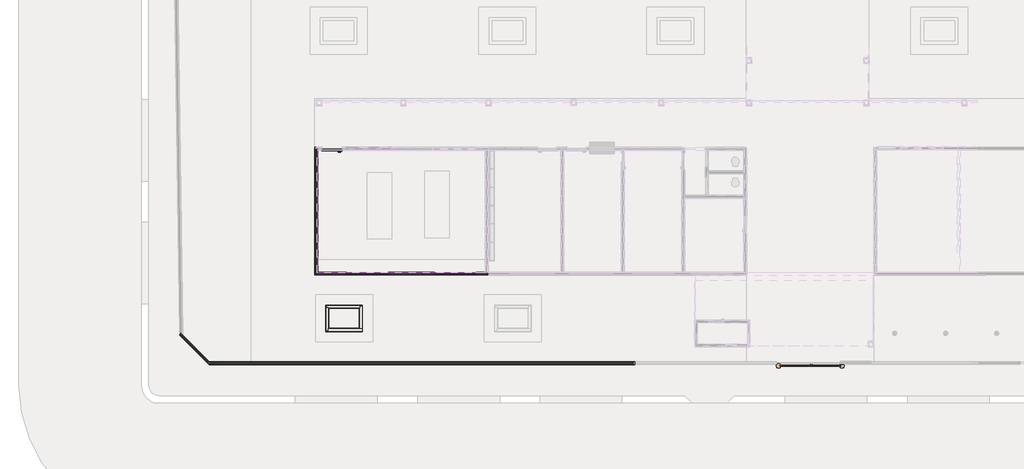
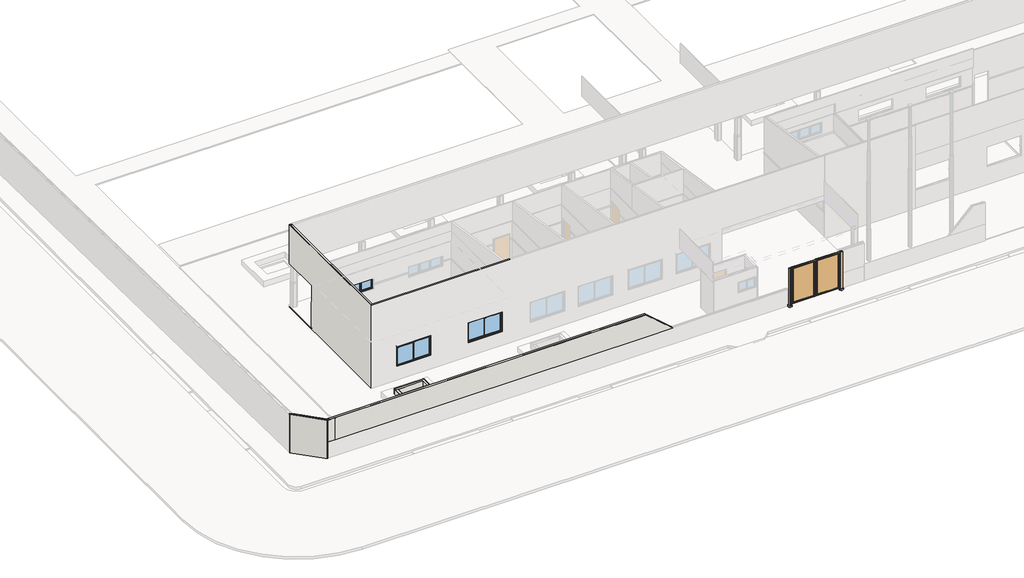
# One storey, part 1 of 28: 60 walls, 3 doors, 3 windows.
"""IFC4 building model written with IfcOpenShell, lengths in millimetres."""

from ifc_helpers import new_model, si_unit, frame, origin, origin_with_axes, place, context, project, spatial, polyline, outline, extrude, faceted_brep, transform, mapped, element, save
from components import door_f751b543, pf16_l92cm_bd960443, pt35_300x235cm_5ac86dbf, window_2x1_20x1x10_9e9748dd, window_2x1_20x1x10_631532af, window_2x60x220_e9b3d189

model = new_model("IFC4")

# Units and contexts
model_context = context("Model", 3, world=origin())
ifc_project = project(units=[si_unit("LENGTHUNIT", "METRE", prefix="MILLI")], contexts=[model_context])

# Site, building, storey
site = spatial("IfcSite", under=ifc_project)
building = spatial("IfcBuilding", under=site)
storey = spatial("IfcBuildingStorey", under=building, Name="Térreo", Elevation=0.0)

# Doors
placement = place(None, origin())
door_shape = door_f751b543(model_context)
element("IfcDoor", 1, ObjectType="FDE_SO_Soleiras1 : SO14_SoleiraRampadaDesnívelAté2cm_L=14cm_Cimentado 2", at=placement, inside=storey, context=model_context, shape_type="MappedRepresentation", body=[
    mapped(door_shape, transform((-54285.4091269, 10567.3195082, 0.0), x_axis=(-1.0, 0.0, 0.0), y_axis=(0.0, -1.0, 0.0), z_axis=(0.0, 0.0, 1.0))),
])
pf16_l92cm_shape = pf16_l92cm_bd960443(model_context)
element("IfcDoor", 2, ObjectType="FDE_PF15_PF16_PF17_PortaemChapadeFerro : PF16_L92cm", at=placement, inside=storey, context=model_context, shape_type="MappedRepresentation", body=[
    mapped(pf16_l92cm_shape, transform((-54285.4091269, 10532.3195082, 0.0), x_axis=(-1.0, 0.0, 0.0), y_axis=(0.0, -1.0, 0.0), z_axis=(0.0, 0.0, 1.0))),
])
pt35_300x235cm_shape = pt35_300x235cm_5ac86dbf(model_context)
element("IfcDoor", 3, ObjectType="FDE_PT34_PT35_Portão_UsoExterno_GradilEletrofundido_2Folhas : PT35_300x235cm", at=placement, inside=storey, context=model_context, shape_type="MappedRepresentation", body=[
    mapped(pt35_300x235cm_shape, transform((-30848.24702, -37.6448926, 200.0), x_axis=(-1.0, 0.0, 0.0), y_axis=(0.0, -1.0, 0.0), z_axis=(0.0, 0.0, 1.0))),
])

# Walls
element("IfcWall", 4, ObjectType="FDE_S712_AlvenariadeTijoloCerâmico/Baiano_Alvenaria_9cm - Existente", at=placement, inside=storey, context=model_context, shape_type="Brep", body=[
    faceted_brep([(-55003.4091269, 4430.0, 3500.0), (-55003.4091269, 4430.0, 0.0), (-55003.4091269, 4520.0, 0.0), (-55003.4091269, 10541.3195082, 0.0), (-55003.4091269, 10631.3195082, 0.0), (-55003.4091269, 10652.3195082, 0.0), (-55003.4091269, 10652.3195082, 220.0), (-55003.4091269, 10637.3195082, 220.0), (-55003.4091269, 10637.3195082, 1824.9435125), (-55003.4091269, 10631.3195082, 1824.9435125), (-55003.4091269, 10631.3195082, 3500.0), (-55003.4091269, 10541.3195082, 3500.0), (-55003.4091269, 4520.0, 3500.0), (-55093.4091269, 4430.0, 0.0), (-55093.4091269, 4430.0, 3500.0), (-55093.4091269, 10631.3195082, 3500.0), (-55093.4091269, 10631.3195082, 1824.9435125), (-55093.4091269, 10637.3195082, 1824.9435125), (-55093.4091269, 10637.3195082, 220.0), (-55093.4091269, 10652.3195082, 220.0), (-55093.4091269, 10652.3195082, 0.0)], [[[0, 1, 2, 3, 4, 5, 6, 7, 8, 9, 10, 11, 12]], [[13, 14, 15, 16, 17, 18, 19, 20]], [[5, 4, 3, 2, 1, 13, 20]], [[0, 12, 11, 10, 15, 14]], [[0, 14, 13, 1]], [[6, 5, 20, 19]], [[18, 7, 6, 19]], [[16, 9, 8, 17]], [[7, 18, 17, 8]], [[9, 16, 15, 10]]]),
])
element("IfcWall", 5, ObjectType="FDE_S712_AlvenariadeTijoloCerâmico/Baiano_Alvenaria_9cm - Existente", at=placement, inside=storey, context=model_context, shape_type="Brep", body=[
    faceted_brep([(-46653.4091269, 4520.0, 0.0), (-46743.4091269, 4520.0, 0.0), (-55003.4091269, 4520.0, 0.0), (-55003.4091269, 4520.0, 3500.0), (-46743.4091269, 4520.0, 3500.0), (-46653.4091269, 4520.0, 3500.0), (-47208.4091269, 4520.0, 965.0), (-47208.4091269, 4520.0, 2235.0), (-49278.4091269, 4520.0, 2235.0), (-49278.4091269, 4520.0, 965.0), (-51518.4091269, 4520.0, 965.0), (-51518.4091269, 4520.0, 2235.0), (-53588.4091269, 4520.0, 2235.0), (-53588.4091269, 4520.0, 965.0), (-55003.4091269, 4430.0, 0.0), (-46653.4091269, 4430.0, 0.0), (-46653.4091269, 4430.0, 3500.0), (-55003.4091269, 4430.0, 3500.0), (-47208.4091269, 4430.0, 2235.0), (-47208.4091269, 4430.0, 965.0), (-49278.4091269, 4430.0, 965.0), (-49278.4091269, 4430.0, 2235.0), (-51518.4091269, 4430.0, 2235.0), (-51518.4091269, 4430.0, 965.0), (-53588.4091269, 4430.0, 965.0), (-53588.4091269, 4430.0, 2235.0)], [[[0, 1, 2, 3, 4, 5], [6, 7, 8, 9], [10, 11, 12, 13]], [[14, 15, 16, 17], [18, 19, 20, 21], [22, 23, 24, 25]], [[2, 1, 0, 15, 14]], [[5, 4, 3, 17, 16]], [[0, 5, 16, 15]], [[2, 14, 17, 3]], [[10, 23, 22, 11]], [[11, 22, 25, 12]], [[12, 25, 24, 13]], [[23, 10, 13, 24]], [[6, 19, 18, 7]], [[7, 18, 21, 8]], [[8, 21, 20, 9]], [[19, 6, 9, 20]]]),
])
element("IfcWall", 6, ObjectType="FDE_S712_AlvenariadeTijoloCerâmico/Baiano_Alvenaria_9cm - Existente", at=placement, inside=storey, context=model_context, shape_type="Brep", body=[
    faceted_brep([(-60211.051397, 62.3387091, 0.0), (-60301.051397, 152.3387091, 0.0), (-61645.7047703, 1496.9920824, 0.0), (-61708.9096122, 1560.1969243, 0.0), (-61708.9096122, 1560.1969243, 2545.9092161), (-61645.7047703, 1496.9920824, 2545.9092161), (-60324.1743971, 175.4617092, 2545.9092161), (-60324.1743971, 175.4617092, 1156.7860555), (-60211.051397, 62.3387091, 1156.7860555), (-60338.3306177, 62.3387091, 0.0), (-60338.3306177, 62.3387091, 1156.7860555), (-60451.4536177, 175.4617092, 1156.7860555), (-60451.4536177, 175.4617092, 2545.9092161), (-61707.0908497, 1431.0989412, 2545.9092161), (-61707.0908497, 1431.0989412, 0.0)], [[[0, 1, 2, 3, 4, 5, 6, 7, 8]], [[9, 10, 11, 12, 13, 14]], [[3, 2, 1, 0, 9, 14]], [[6, 5, 4, 13, 12]], [[4, 3, 14, 13]], [[7, 11, 10, 8]], [[0, 8, 10, 9]], [[7, 6, 12, 11]]]),
])
element("IfcWall", 7, ObjectType="FDE_S712_AlvenariadeTijoloCerâmico/Baiano_Alvenaria_9cm - Existente", at=placement, inside=storey, context=model_context, shape_type="Brep", body=[
    faceted_brep([(-46743.4091269, 4520.0000015, 0.0), (-55003.4091269, 4520.0000015, 0.0), (-55003.4091269, 4520.0000015, 1731.0528047), (-55003.4091269, 4520.0000015, 1824.9435125), (-55003.4091269, 4520.0000015, 3500.0), (-55093.4091269, 4520.0000015, 3500.0), (-55093.4091269, 4520.0000015, 5400.0), (-55003.4091269, 4520.0000015, 5400.0), (-46698.4091269, 4520.0000015, 5400.0), (-46698.4091269, 4520.0000015, 5045.0), (-46743.4091269, 4520.0000015, 5045.0), (-46743.4091269, 4520.0000015, 5000.0), (-46743.4091269, 4520.0000015, 3500.0), (-46743.4091269, 4520.0000015, 1824.9435125), (-46743.4091269, 4520.0000015, 1731.0528047), (-46743.4091269, 4520.0000015, 220.0), (-51518.4091269, 4520.0000015, 965.0), (-51518.4091269, 4520.0000015, 1731.0528047), (-51518.4091269, 4520.0000015, 1824.9435125), (-51518.4091269, 4520.0000015, 2235.0), (-53588.4091269, 4520.0000015, 2235.0), (-53588.4091269, 4520.0000015, 1824.9435125), (-53588.4091269, 4520.0000015, 1731.0528047), (-53588.4091269, 4520.0000015, 965.0), (-47208.4091269, 4520.0000015, 965.0), (-47208.4091269, 4520.0000015, 1731.0528047), (-47208.4091269, 4520.0000015, 1824.9435125), (-47208.4091269, 4520.0000015, 2235.0), (-49278.4091269, 4520.0000015, 2235.0), (-49278.4091269, 4520.0000015, 1824.9435125), (-49278.4091269, 4520.0000015, 1731.0528047), (-49278.4091269, 4520.0000015, 965.0), (-55003.4091269, 4430.0000015, 0.0), (-46743.4091269, 4430.0000015, 0.0), (-46743.4091269, 4430.0000015, 3500.0), (-46743.4091269, 4430.0000015, 5000.0), (-46743.4091269, 4430.0000015, 5045.0), (-46698.4091269, 4430.0000015, 5045.0), (-46698.4091269, 4430.0000015, 5400.0), (-55093.4091269, 4430.0000015, 5400.0), (-55093.4091269, 4430.0000015, 3500.0), (-55003.4091269, 4430.0000015, 3500.0), (-51518.4091269, 4430.0000015, 2235.0), (-51518.4091269, 4430.0000015, 965.0), (-53588.4091269, 4430.0000015, 965.0), (-53588.4091269, 4430.0000015, 2235.0), (-47208.4091269, 4430.0000015, 2235.0), (-47208.4091269, 4430.0000015, 965.0), (-49278.4091269, 4430.0000015, 965.0), (-49278.4091269, 4430.0000015, 2235.0)], [[[0, 1, 2, 3, 4, 5, 6, 7, 8, 9, 10, 11, 12, 13, 14, 15], [16, 17, 18, 19, 20, 21, 22, 23], [24, 25, 26, 27, 28, 29, 30, 31]], [[32, 33, 34, 35, 36, 37, 38, 39, 40, 41], [42, 43, 44, 45], [46, 47, 48, 49]], [[1, 0, 33, 32]], [[8, 7, 6, 39, 38]], [[8, 38, 37, 9]], [[9, 37, 36, 10]], [[0, 15, 14, 13, 12, 11, 10, 36, 35, 34, 33]], [[5, 4, 41, 40]], [[1, 32, 41, 4, 3, 2]], [[39, 6, 5, 40]], [[16, 43, 42, 19, 18, 17]], [[19, 42, 45, 20]], [[20, 45, 44, 23, 22, 21]], [[43, 16, 23, 44]], [[24, 47, 46, 27, 26, 25]], [[27, 46, 49, 28]], [[28, 49, 48, 31, 30, 29]], [[47, 24, 31, 48]]]),
])
element("IfcWall", 8, ObjectType="FDE_S712_AlvenariadeTijoloCerâmico/Baiano_Alvenaria_9cm - Existente", at=placement, inside=storey, context=model_context, shape_type="Brep", body=[
    faceted_brep([(-55003.4091269, 4520.0, 0.0), (-55003.4091269, 10541.3195082, 0.0), (-55003.4091269, 10541.3195082, 2900.0), (-55003.4091269, 12829.0, 2900.0), (-55003.4091269, 12860.0, 2900.0), (-55003.4091269, 12920.0, 2900.0), (-55003.4091269, 12920.0, 5400.0), (-55003.4091269, 12860.0, 5400.0), (-55003.4091269, 12829.0, 5400.0), (-55003.4091269, 4520.0000015, 5400.0), (-55003.4091269, 4520.0000015, 3500.0), (-55003.4091269, 4520.0, 1824.9435125), (-55003.4091269, 4520.0, 1731.0528047), (-55093.4091269, 4520.0, 0.0), (-55093.4091269, 4520.0, 3500.0), (-55093.4091269, 4520.0000015, 5400.0), (-55093.4091269, 12920.0, 5400.0), (-55093.4091269, 12920.0, 2900.0), (-55093.4091269, 10541.3195082, 2900.0), (-55093.4091269, 10541.3195082, 0.0)], [[[0, 1, 2, 3, 4, 5, 6, 7, 8, 9, 10, 11, 12]], [[13, 14, 15, 16, 17, 18, 19]], [[0, 12, 11, 10, 14, 13]], [[10, 9, 15, 14]], [[1, 0, 13, 19]], [[9, 8, 7, 6, 16, 15]], [[5, 4, 3, 2, 18, 17]], [[6, 5, 17, 16]], [[1, 19, 18, 2]]]),
])
element("IfcWall", 9, ObjectType="Pintura Externa - Tinta Acrílica Verbrás  Verde Água", at=placement, inside=storey, context=model_context, shape_type="Brep", body=[
    faceted_brep([(-55093.4091269, 4430.0000017, 0.0), (-55093.4091269, 12980.0, 0.0), (-55093.4091269, 12980.0, 100.0), (-55093.4091269, 10652.3195082, 100.0), (-55093.4091269, 10652.3195082, 220.0), (-55093.4091269, 10667.3195082, 220.0), (-55093.4091269, 10667.3195082, 1731.0528047), (-55093.4091269, 10667.3195082, 1824.9435125), (-55093.4091269, 10652.3195082, 1824.9435125), (-55093.4091269, 10652.3195082, 2900.0), (-55093.4091269, 12950.0, 2900.0), (-55093.4091269, 12980.0, 2900.0), (-55093.4091269, 12980.0, 5400.0), (-55093.4091269, 12950.0, 5400.0), (-55093.4091269, 4430.0000017, 5400.0), (-55123.4091269, 12980.0, 0.0), (-55123.4091269, 4430.0000017, 0.0), (-55123.4091269, 4430.0000017, 5400.0), (-55123.4091269, 12980.0, 5400.0), (-55123.4091269, 12980.0, 2900.0), (-55123.4091269, 10652.3195082, 2900.0), (-55123.4091269, 10652.3195082, 1824.9435125), (-55123.4091269, 10667.3195082, 1824.9435125), (-55123.4091269, 10667.3195082, 220.0), (-55123.4091269, 10652.3195082, 220.0), (-55123.4091269, 10652.3195082, 100.0), (-55123.4091269, 12980.0, 100.0)], [[[0, 1, 2, 3, 4, 5, 6, 7, 8, 9, 10, 11, 12, 13, 14]], [[15, 16, 17, 18, 19, 20, 21, 22, 23, 24, 25, 26]], [[1, 0, 16, 15]], [[14, 13, 12, 18, 17]], [[0, 14, 17, 16]], [[9, 20, 19, 11, 10]], [[25, 3, 2, 26]], [[20, 9, 8, 21]], [[4, 3, 25, 24]], [[23, 5, 4, 24]], [[21, 8, 7, 22]], [[5, 23, 22, 7, 6]], [[1, 15, 26, 2]], [[18, 12, 11, 19]]]),
])
element("IfcWall", 10, ObjectType="Muro Edificação", at=placement, inside=storey, context=model_context, shape_type="Brep", body=[
    faceted_brep([(-60174.1743971, 25.4617092, 1156.7860555), (-41063.9536177, 25.4617092, 1156.7860555), (-39448.4091269, 25.4617092, 1156.7860555), (-41063.9536177, 25.4617092, 2545.9092161), (-60174.1743971, 25.4617092, 2545.9092161), (-60324.1743971, 175.4617092, 1156.7860555), (-60324.1743971, 175.4617092, 2545.9092161), (-60294.4759123, 175.4617092, 2545.9092161), (-41063.9536177, 175.4617092, 2545.9092161), (-39448.4091269, 175.4617092, 1156.7860555), (-41063.9536177, 175.4617092, 1156.7860555), (-60294.4759123, 175.4617092, 1156.7860555), (-60301.051397, 152.3387091, 1156.7860555)], [[[0, 1, 2, 3, 4]], [[5, 6, 7, 8, 9, 10, 11]], [[1, 0, 12, 5, 11, 10]], [[4, 3, 8, 7, 6]], [[2, 1, 10, 9]], [[3, 2, 9, 8]], [[0, 4, 6, 5, 12]]]),
])
element("IfcWall", 11, ObjectType="Pardes Externas_Pintura Acrílica Branco Neve", at=placement, inside=storey, context=model_context, shape_type="Brep", body=[
    faceted_brep([(-61756.0551867, 1450.3647934, 0.0), (-60310.1521025, 4.4617092, 0.0), (-60310.1521025, 4.4617092, 2551.1739106), (-61756.0551867, 1450.3647934, 2551.1739106), (-61756.4820754, 1480.4901668, 0.0), (-61756.4820754, 1480.4901668, 2545.9092161), (-61756.4820754, 1480.4901668, 2551.1739106), (-60280.4536177, 4.4617092, 2551.1739106), (-60280.4536177, 4.4617092, 2545.9092161), (-60280.4536177, 4.4617092, 1156.7860555), (-60280.4536177, 4.4617092, 0.0), (-61735.1780809, 1459.1861724, 0.0)], [[[0, 1, 2, 3]], [[4, 5, 6, 7, 8, 9, 10, 11]], [[1, 0, 4, 11, 10]], [[3, 2, 7, 6]], [[0, 3, 6, 5, 4]], [[2, 1, 10, 9, 8, 7]]]),
])
element("IfcWall", 12, ObjectType="Pardes Internas_Pintura Acrílica Branco Neve 2", at=placement, inside=storey, context=model_context, shape_type="Brep", body=[
    faceted_brep([(-55003.4091269, 10547.3195082, 1824.9435125), (-55003.4091269, 10517.3195082, 1824.9435125), (-55003.4091269, 4520.0, 1824.9435125), (-55003.4091269, 4520.0, 2900.0), (-55003.4091269, 10547.3195082, 2900.0), (-54972.4091269, 10547.3195082, 1824.9435125), (-54972.4091269, 10547.3195082, 2900.0), (-54972.4091269, 10541.3195082, 2900.0), (-54972.4091269, 10516.3195082, 2900.0), (-54972.4091269, 4551.0, 2900.0), (-54972.4091269, 4520.0, 2900.0), (-54972.4091269, 4520.0, 1824.9435125), (-54972.4091269, 4551.0, 1824.9435125), (-54972.4091269, 10516.3195082, 1824.9435125), (-54972.4091269, 10541.3195082, 1824.9435125)], [[[0, 1, 2, 3, 4]], [[5, 6, 7, 8, 9, 10, 11, 12, 13, 14]], [[2, 1, 0, 5, 14, 13, 12, 11]], [[4, 3, 10, 9, 8, 7, 6]], [[3, 2, 11, 10]], [[0, 4, 6, 5]]]),
])
element("IfcWall", 13, ObjectType="Pardes Internas_Pintura Acrílica Branco Neve 2", at=placement, inside=storey, context=model_context, shape_type="SweptSolid", body=[
    extrude(outline(polyline([(2900.0, -46774.4091269), (2900.0, -54972.4091269), (1824.9435125, -54972.4091269), (1824.9435125, -53588.4091269), (2235.0, -53588.4091269), (2235.0, -51518.4091269), (1824.9435125, -51518.4091269), (1824.9435125, -49278.4091269), (2235.0, -49278.4091269), (2235.0, -47208.4091269), (1824.9435125, -47208.4091269), (1824.9435125, -46774.4091269), (2900.0, -46774.4091269)])), frame((0.0, 4520.0, 0.0), z_axis=(0.0, 1.0, 0.0), x_axis=(0.0, 0.0, 1.0)), (0.0, 0.0, 1.0), 31.0),
])
element("IfcWall", 14, ObjectType="Revestimento Cerâmico 10x10cm", at=placement, inside=storey, context=model_context, shape_type="Brep", body=[
    faceted_brep([(-55003.4091269, 10541.3195082, 220.0), (-55003.4091269, 4520.0000015, 220.0), (-55003.4091269, 4520.0000015, 1731.0528047), (-55003.4091269, 10541.3195082, 1731.0528047), (-54973.4091269, 10541.3195082, 220.0), (-54973.4091269, 10541.3195082, 1731.0528047), (-54973.4091269, 4550.0000015, 1731.0528047), (-54973.4091269, 4520.0000015, 1731.0528047), (-54973.4091269, 4520.0000015, 220.0), (-54973.4091269, 4550.0000015, 220.0)], [[[0, 1, 2, 3]], [[4, 5, 6, 7, 8, 9]], [[1, 0, 4, 9, 8]], [[3, 2, 7, 6, 5]], [[2, 1, 8, 7]], [[0, 3, 5, 4]]]),
])
element("IfcWall", 15, ObjectType="Faixa - Revestimento Cerâmico Verde Folha 10x10cm", at=placement, inside=storey, context=model_context, shape_type="SweptSolid", body=[
    extrude(outline(polyline([(-55003.4091269, 4520.0), (-55003.4091269, 10541.3195082), (-54973.4091269, 10541.3195082), (-54973.4091269, 4520.0), (-55003.4091269, 4520.0)])), frame((0.0, 0.0, 1731.0528047), z_axis=(0.0, 0.0, 1.0), x_axis=(1.0, 0.0, 0.0)), (0.0, 0.0, 1.0), 93.8907079),
])
element("IfcWall", 16, ObjectType="Revestimento Cerâmico 10x10cm", at=placement, inside=storey, context=model_context, shape_type="Brep", body=[
    faceted_brep([(-54973.4091269, 4520.0000015, 220.0), (-46743.4091269, 4520.0000015, 220.0), (-46743.4091269, 4520.0000015, 1731.0528047), (-47208.4091269, 4520.0000015, 1731.0528047), (-47208.4091269, 4520.0000015, 965.0), (-49278.4091269, 4520.0000015, 965.0), (-49278.4091269, 4520.0000015, 1731.0528047), (-51518.4091269, 4520.0000015, 1731.0528047), (-51518.4091269, 4520.0000015, 965.0), (-53588.4091269, 4520.0000015, 965.0), (-53588.4091269, 4520.0000015, 1731.0528047), (-54973.4091269, 4520.0000015, 1731.0528047), (-46743.4091269, 4550.0000015, 220.0), (-46773.4091269, 4550.0000015, 220.0), (-54973.4091269, 4550.0000015, 220.0), (-54973.4091269, 4550.0000015, 1731.0528047), (-53588.4091269, 4550.0000015, 1731.0528047), (-53588.4091269, 4550.0000015, 965.0), (-51518.4091269, 4550.0000015, 965.0), (-51518.4091269, 4550.0000015, 1731.0528047), (-49278.4091269, 4550.0000015, 1731.0528047), (-49278.4091269, 4550.0000015, 965.0), (-47208.4091269, 4550.0000015, 965.0), (-47208.4091269, 4550.0000015, 1731.0528047), (-46773.4091269, 4550.0000015, 1731.0528047), (-46743.4091269, 4550.0000015, 1731.0528047)], [[[0, 1, 2, 3, 4, 5, 6, 7, 8, 9, 10, 11]], [[12, 13, 14, 15, 16, 17, 18, 19, 20, 21, 22, 23, 24, 25]], [[1, 0, 14, 13, 12]], [[2, 25, 24, 23, 3]], [[6, 20, 19, 7]], [[15, 11, 10, 16]], [[1, 12, 25, 2]], [[22, 4, 3, 23]], [[5, 21, 20, 6]], [[4, 22, 21, 5]], [[18, 8, 7, 19]], [[9, 17, 16, 10]], [[8, 18, 17, 9]], [[0, 11, 15, 14]]]),
])
element("IfcWall", 17, ObjectType="Faixa - Revestimento Cerâmico Verde Folha 10x10cm", at=placement, inside=storey, context=model_context, shape_type="SweptSolid", body=[
    extrude(outline(polyline([(-55003.4091269, 4520.0000015), (-55003.4091269, 4550.0000015), (-53588.4091269, 4550.0000015), (-53588.4091269, 4520.0000015), (-55003.4091269, 4520.0000015)])), frame((0.0, 0.0, 1731.0528047), z_axis=(0.0, 0.0, 1.0), x_axis=(1.0, 0.0, 0.0)), (0.0, 0.0, 1.0), 93.8907079),
])
element("IfcWall", 18, ObjectType="Faixa - Revestimento Cerâmico Verde Folha 10x10cm", at=placement, inside=storey, context=model_context, shape_type="SweptSolid", body=[
    extrude(outline(polyline([(-49278.4091269, 4550.0000015), (-49278.4091269, 4520.0000015), (-51518.4091269, 4520.0000015), (-51518.4091269, 4550.0000015), (-49278.4091269, 4550.0000015)])), frame((0.0, 0.0, 1731.0528047), z_axis=(0.0, 0.0, 1.0), x_axis=(1.0, 0.0, 0.0)), (0.0, 0.0, 1.0), 93.8907079),
])
element("IfcWall", 19, ObjectType="Faixa - Revestimento Cerâmico Verde Folha 10x10cm", at=placement, inside=storey, context=model_context, shape_type="Brep", body=[
    faceted_brep([(-55003.4091269, 10547.3195082, 1731.0528047), (-55003.4091269, 10547.3195082, 1824.9435125), (-54752.4091269, 10547.3195082, 1824.9435125), (-54752.4091269, 10547.3195082, 1731.0528047), (-55003.4091269, 10517.3195082, 1824.9435125), (-55003.4091269, 10517.3195082, 1731.0528047), (-54752.4091269, 10517.3195082, 1731.0528047), (-54752.4091269, 10517.3195082, 1824.9435125), (-55003.4091269, 10541.3195082, 1824.9435125), (-54752.4091269, 10541.3195082, 1824.9435125)], [[[0, 1, 2, 3]], [[4, 5, 6, 7]], [[5, 0, 3, 6]], [[1, 8, 4, 7, 9, 2]], [[0, 5, 4, 8, 1]], [[3, 2, 9, 7, 6]]]),
])
element("IfcWall", 20, ObjectType="FDE_S713_AlvenariadeTijoloLaminadoaVista_Alvenaria_1/2TijoloAlternado_11,5cm", at=placement, inside=storey, context=model_context, shape_type="Brep", body=[
    faceted_brep([(-54572.4091269, 2801.7308554, 100.0), (-54572.4091269, 1658.7308554, 100.0), (-54572.4091269, 1658.7308554, 800.0), (-54572.4091269, 2801.7308554, 800.0), (-54572.4091269, 2801.7308554, 179.0468845), (-54457.4091269, 2801.7308554, 100.0), (-54457.4091269, 2801.7308554, 800.0), (-54457.4091269, 1773.7308554, 800.0), (-54457.4091269, 1658.7308554, 800.0), (-54457.4091269, 1658.7308554, 100.0)], [[[0, 1, 2, 3, 4]], [[5, 6, 7, 8, 9]], [[1, 0, 5, 9]], [[3, 2, 8, 7, 6]], [[2, 1, 9, 8]], [[0, 4, 3, 6, 5]]]),
])
element("IfcWall", 21, ObjectType="FDE_S713_AlvenariadeTijoloLaminadoaVista_Alvenaria_1/2TijoloAlternado_11,5cm", at=placement, inside=storey, context=model_context, shape_type="Brep", body=[
    faceted_brep([(-54457.4091269, 1658.7308554, 0.0), (-52814.4091269, 1658.7308554, 0.0), (-52814.4091269, 1658.7308554, 800.0), (-54457.4091269, 1658.7308554, 800.0), (-54457.4091269, 1658.7308554, 100.0), (-54457.4091269, 1773.7308554, 0.0), (-54457.4091269, 1773.7308554, 800.0), (-52929.4091269, 1773.7308554, 800.0), (-52814.4091269, 1773.7308554, 800.0), (-52814.4091269, 1773.7308554, 100.0), (-52814.4091269, 1773.7308554, 0.0)], [[[0, 1, 2, 3, 4]], [[5, 6, 7, 8, 9, 10]], [[1, 0, 5, 10]], [[3, 2, 8, 7, 6]], [[2, 1, 10, 9, 8]], [[0, 4, 3, 6, 5]]]),
])
element("IfcWall", 22, ObjectType="FDE_S713_AlvenariadeTijoloLaminadoaVista_Alvenaria_1/2TijoloAlternado_11,5cm", at=placement, inside=storey, context=model_context, shape_type="Brep", body=[
    faceted_brep([(-52814.4091269, 1773.7308554, 100.0), (-52814.4091269, 2916.7308554, 100.0), (-52814.4091269, 2916.7308554, 800.0), (-52814.4091269, 1773.7308554, 800.0), (-52929.4091269, 1773.7308554, 100.0), (-52929.4091269, 1773.7308554, 800.0), (-52929.4091269, 2801.7308554, 800.0), (-52929.4091269, 2916.7308554, 800.0), (-52929.4091269, 2916.7308554, 179.0468845), (-52929.4091269, 2916.7308554, 100.0)], [[[0, 1, 2, 3]], [[4, 5, 6, 7, 8, 9]], [[1, 0, 4, 9]], [[3, 2, 7, 6, 5]], [[2, 1, 9, 8, 7]], [[0, 3, 5, 4]]]),
])
element("IfcWall", 23, ObjectType="FDE_S713_AlvenariadeTijoloLaminadoaVista_Alvenaria_1/2TijoloAlternado_11,5cm", at=placement, inside=storey, context=model_context, shape_type="Brep", body=[
    faceted_brep([(-52929.4091269, 2916.7308554, 179.0468845), (-54572.4091269, 2916.7308554, 179.0468845), (-54572.4091269, 2916.7308554, 800.0), (-52929.4091269, 2916.7308554, 800.0), (-52929.4091269, 2801.7308554, 179.0468845), (-52929.4091269, 2801.7308554, 800.0), (-54457.4091269, 2801.7308554, 800.0), (-54572.4091269, 2801.7308554, 800.0), (-54572.4091269, 2801.7308554, 179.0468845)], [[[0, 1, 2, 3]], [[4, 5, 6, 7, 8]], [[1, 0, 4, 8]], [[3, 2, 7, 6, 5]], [[2, 1, 8, 7]], [[0, 3, 5, 4]]]),
])
element("IfcWall", 24, ObjectType="Pardes Externas_Pintura Acrílica Branco Neve", at=placement, inside=storey, context=model_context, shape_type="Brep", body=[
    faceted_brep([(-54593.4091269, 2916.7308554, 100.0), (-54572.4091269, 2916.7308554, 100.0), (-52814.4091269, 2916.7308554, 100.0), (-52793.4091269, 2916.7308554, 100.0), (-52793.4091269, 2916.7308554, 800.0), (-52814.4091269, 2916.7308554, 800.0), (-54572.4091269, 2916.7308554, 800.0), (-54593.4091269, 2916.7308554, 800.0), (-54593.4091269, 2937.7308554, 100.0), (-54593.4091269, 2937.7308554, 800.0), (-52793.4091269, 2937.7308554, 800.0), (-52793.4091269, 2937.7308554, 100.0)], [[[0, 1, 2, 3, 4, 5, 6, 7]], [[8, 9, 10, 11]], [[3, 2, 1, 0, 8, 11]], [[7, 6, 5, 4, 10, 9]], [[0, 7, 9, 8]], [[4, 3, 11, 10]]]),
])
element("IfcWall", 25, ObjectType="Pardes Externas_Pintura Acrílica Branco Neve", at=placement, inside=storey, context=model_context, shape_type="Brep", body=[
    faceted_brep([(-54572.4091269, 1637.7308554, 100.0), (-54572.4091269, 1658.7308554, 100.0), (-54572.4091269, 2916.7308554, 100.0), (-54572.4091269, 2916.7308554, 800.0), (-54572.4091269, 1658.7308554, 800.0), (-54572.4091269, 1637.7308554, 800.0), (-54593.4091269, 1637.7308554, 100.0), (-54593.4091269, 1637.7308554, 800.0), (-54593.4091269, 2916.7308554, 800.0), (-54593.4091269, 2916.7308554, 100.0)], [[[0, 1, 2, 3, 4, 5]], [[6, 7, 8, 9]], [[2, 1, 0, 6, 9]], [[5, 4, 3, 8, 7]], [[3, 2, 9, 8]], [[0, 5, 7, 6]]]),
])
element("IfcWall", 26, ObjectType="Pardes Externas_Pintura Acrílica Branco Neve", at=placement, inside=storey, context=model_context, shape_type="Brep", body=[
    faceted_brep([(-52814.4091269, 2916.7308554, 100.0), (-52814.4091269, 1658.7308554, 100.0), (-52814.4091269, 1637.7308554, 100.0), (-52814.4091269, 1637.7308554, 800.0), (-52814.4091269, 1658.7308554, 800.0), (-52814.4091269, 2916.7308554, 800.0), (-52793.4091269, 2916.7308554, 100.0), (-52793.4091269, 2916.7308554, 800.0), (-52793.4091269, 1637.7308554, 800.0), (-52793.4091269, 1637.7308554, 100.0)], [[[0, 1, 2, 3, 4, 5]], [[6, 7, 8, 9]], [[2, 1, 0, 6, 9]], [[5, 4, 3, 8, 7]], [[0, 5, 7, 6]], [[3, 2, 9, 8]]]),
])
element("IfcWall", 27, ObjectType="Pardes Externas_Pintura Acrílica Branco Neve", at=placement, inside=storey, context=model_context, shape_type="SweptSolid", body=[
    extrude(outline(polyline([(-54572.4091269, 1658.7308554), (-52814.4091269, 1658.7308554), (-52814.4091269, 1637.7308554), (-54572.4091269, 1637.7308554), (-54572.4091269, 1658.7308554)])), frame((0.0, 0.0, 100.0), z_axis=(0.0, 0.0, 1.0), x_axis=(1.0, 0.0, 0.0)), (0.0, 0.0, 1.0), 700.0),
])
element("IfcWall", 28, ObjectType="Pardes Externas_Pintura Acrílica Branco Neve", at=placement, inside=storey, context=model_context, shape_type="Brep", body=[
    faceted_brep([(-52929.4091269, 1773.7308554, 0.0), (-52929.4091269, 2801.7308554, 0.0), (-52929.4091269, 2801.7308554, 800.0), (-52929.4091269, 1773.7308554, 800.0), (-52950.4091269, 1773.7308554, 0.0), (-52950.4091269, 1773.7308554, 800.0), (-52950.4091269, 1794.7308554, 800.0), (-52950.4091269, 2780.7308554, 800.0), (-52950.4091269, 2801.7308554, 800.0), (-52950.4091269, 2801.7308554, 0.0), (-52950.4091269, 2780.7308554, 0.0), (-52950.4091269, 1794.7308554, 0.0)], [[[0, 1, 2, 3]], [[4, 5, 6, 7, 8, 9, 10, 11]], [[1, 0, 4, 11, 10, 9]], [[3, 2, 8, 7, 6, 5]], [[2, 1, 9, 8]], [[0, 3, 5, 4]]]),
])
element("IfcWall", 29, ObjectType="Pardes Externas_Pintura Acrílica Branco Neve", at=placement, inside=storey, context=model_context, shape_type="Brep", body=[
    faceted_brep([(-52950.4091269, 2801.7308554, 0.0), (-54457.4091269, 2801.7308554, 0.0), (-54457.4091269, 2801.7308554, 800.0), (-52950.4091269, 2801.7308554, 800.0), (-52950.4091269, 2780.7308554, 0.0), (-52950.4091269, 2780.7308554, 800.0), (-54436.4091269, 2780.7308554, 800.0), (-54457.4091269, 2780.7308554, 800.0), (-54457.4091269, 2780.7308554, 0.0), (-54436.4091269, 2780.7308554, 0.0)], [[[0, 1, 2, 3]], [[4, 5, 6, 7, 8, 9]], [[1, 0, 4, 9, 8]], [[3, 2, 7, 6, 5]], [[0, 3, 5, 4]], [[2, 1, 8, 7]]]),
])
element("IfcWall", 30, ObjectType="Pardes Externas_Pintura Acrílica Branco Neve", at=placement, inside=storey, context=model_context, shape_type="Brep", body=[
    faceted_brep([(-54457.4091269, 2780.7308554, 0.0), (-54457.4091269, 1773.7308554, 0.0), (-54457.4091269, 1773.7308554, 800.0), (-54457.4091269, 2780.7308554, 800.0), (-54436.4091269, 2780.7308554, 0.0), (-54436.4091269, 2780.7308554, 800.0), (-54436.4091269, 1794.7308554, 800.0), (-54436.4091269, 1773.7308554, 800.0), (-54436.4091269, 1773.7308554, 0.0), (-54436.4091269, 1794.7308554, 0.0)], [[[0, 1, 2, 3]], [[4, 5, 6, 7, 8, 9]], [[1, 0, 4, 9, 8]], [[3, 2, 7, 6, 5]], [[0, 3, 5, 4]], [[2, 1, 8, 7]]]),
])
element("IfcWall", 31, ObjectType="Pardes Externas_Pintura Acrílica Branco Neve", at=placement, inside=storey, context=model_context, shape_type="SweptSolid", body=[
    extrude(outline(polyline([(-52950.4091269, 1773.7308554), (-54436.4091269, 1773.7308554), (-54436.4091269, 1794.7308554), (-52950.4091269, 1794.7308554), (-52950.4091269, 1773.7308554)])), origin_with_axes(), (0.0, 0.0, 1.0), 800.0),
])
element("IfcWall", 32, ObjectType="Pardes Externas_Pintura Acrílica Branco Neve", at=placement, inside=storey, context=model_context, shape_type="Brep", body=[
    faceted_brep([(-61613.9519617, 1465.2392738, 0.0), (-60301.051397, 152.3387091, 0.0), (-60301.051397, 152.3387091, 1156.7860555), (-60324.1743971, 175.4617092, 1156.7860555), (-60324.1743971, 175.4617092, 2545.9092161), (-61613.9519617, 1465.2392738, 2545.9092161), (-61614.3763397, 1495.3621365, 0.0), (-61614.3763397, 1495.3621365, 2545.9092161), (-61593.0741455, 1474.0599423, 2545.9092161), (-60294.4759123, 175.4617092, 2545.9092161), (-60294.4759123, 175.4617092, 1156.7860555), (-60271.3529122, 152.3387091, 1156.7860555), (-60271.3529122, 152.3387091, 0.0), (-61593.0741455, 1474.0599423, 0.0)], [[[0, 1, 2, 3, 4, 5]], [[6, 7, 8, 9, 10, 11, 12, 13]], [[1, 0, 6, 13, 12]], [[5, 4, 9, 8, 7]], [[2, 1, 12, 11]], [[4, 3, 10, 9]], [[10, 3, 2, 11]], [[0, 5, 7, 6]]]),
])
element("IfcWall", 33, ObjectType="FDE_S712_AlvenariadeTijoloCerâmico/Baiano_Alvenaria_9cm", at=placement, inside=storey, context=model_context, shape_type="SweptSolid", body=[
    extrude(outline(polyline([(-52500.0969689, 9373.3754061), (-51400.0969692, 9373.3754061), (-51400.0969692, 9283.3754061), (-52500.0969689, 9283.3754061), (-52500.0969689, 9373.3754061)])), frame((0.0, 0.0, 220.0), z_axis=(0.0, 0.0, 1.0), x_axis=(1.0, 0.0, 0.0)), (0.0, 0.0, 1.0), 950.0),
])
element("IfcWall", 34, ObjectType="FDE_S712_AlvenariadeTijoloCerâmico/Baiano_Alvenaria_9cm", at=placement, inside=storey, context=model_context, shape_type="SweptSolid", body=[
    extrude(outline(polyline([(-52500.0969689, 7873.3754059), (-51400.0969692, 7873.3754059), (-51400.0969692, 7783.3754059), (-52500.0969689, 7783.3754059), (-52500.0969689, 7873.3754059)])), frame((0.0, 0.0, 220.0), z_axis=(0.0, 0.0, 1.0), x_axis=(1.0, 0.0, 0.0)), (0.0, 0.0, 1.0), 950.0),
])
element("IfcWall", 35, ObjectType="FDE_S712_AlvenariadeTijoloCerâmico/Baiano_Alvenaria_9cm", at=placement, inside=storey, context=model_context, shape_type="SweptSolid", body=[
    extrude(outline(polyline([(-52500.0969689, 6323.3754059), (-51398.8919608, 6323.3754059), (-51398.8919608, 6233.3754059), (-52500.0969689, 6233.3754059), (-52500.0969689, 6323.3754059)])), frame((0.0, 0.0, 220.0), z_axis=(0.0, 0.0, 1.0), x_axis=(1.0, 0.0, 0.0)), (0.0, 0.0, 1.0), 950.0),
])
element("IfcWall", 36, ObjectType="FDE_S712_AlvenariadeTijoloCerâmico/Baiano_Alvenaria_9cm", at=placement, inside=storey, context=model_context, shape_type="SweptSolid", body=[
    extrude(outline(polyline([(-49701.6116462, 7924.9999999), (-48601.6116466, 7924.9999999), (-48601.6116466, 7834.9999999), (-49701.6116462, 7834.9999999), (-49701.6116462, 7924.9999999)])), frame((0.0, 0.0, 220.0), z_axis=(0.0, 0.0, 1.0), x_axis=(1.0, 0.0, 0.0)), (0.0, 0.0, 1.0), 950.0),
])
element("IfcWall", 37, ObjectType="FDE_S712_AlvenariadeTijoloCerâmico/Baiano_Alvenaria_9cm", at=placement, inside=storey, context=model_context, shape_type="SweptSolid", body=[
    extrude(outline(polyline([(-49701.6116462, 6374.9999999), (-48600.4066381, 6374.9999999), (-48600.4066381, 6284.9999999), (-49701.6116462, 6284.9999999), (-49701.6116462, 6374.9999999)])), frame((0.0, 0.0, 220.0), z_axis=(0.0, 0.0, 1.0), x_axis=(1.0, 0.0, 0.0)), (0.0, 0.0, 1.0), 950.0),
])
element("IfcWall", 38, ObjectType="FDE_S712_AlvenariadeTijoloCerâmico/Baiano_Alvenaria_9cm", at=placement, inside=storey, context=model_context, shape_type="SweptSolid", body=[
    extrude(outline(polyline([(-49701.6116462, 9425.0000001), (-48601.6116466, 9425.0000001), (-48601.6116466, 9335.0000001), (-49701.6116462, 9335.0000001), (-49701.6116462, 9425.0000001)])), frame((0.0, 0.0, 220.0), z_axis=(0.0, 0.0, 1.0), x_axis=(1.0, 0.0, 0.0)), (0.0, 0.0, 1.0), 950.0),
])
element("IfcWall", 39, ObjectType="Revestimento Cerâmico 10x10cm", at=placement, inside=storey, context=model_context, shape_type="SweptSolid", body=[
    extrude(outline(polyline([(-52500.0969689, 9283.3754061), (-51400.0969692, 9283.3754061), (-51400.0969692, 9253.3754061), (-52500.0969689, 9253.3754061), (-52500.0969689, 9283.3754061)])), frame((0.0, 0.0, 220.0), z_axis=(0.0, 0.0, 1.0), x_axis=(1.0, 0.0, 0.0)), (0.0, 0.0, 1.0), 950.0),
])
element("IfcWall", 40, ObjectType="Revestimento Cerâmico 10x10cm", at=placement, inside=storey, context=model_context, shape_type="Brep", body=[
    faceted_brep([(-52530.0969689, 7903.3754059, 220.0), (-52530.0969689, 7753.3754059, 220.0), (-52530.0969689, 7753.3754059, 1170.0), (-52530.0969689, 7903.3754059, 1170.0), (-52500.0969689, 7903.3754059, 220.0), (-52500.0969689, 7903.3754059, 1170.0), (-52500.0969689, 7873.3754059, 1170.0), (-52500.0969689, 7783.3754059, 1170.0), (-52500.0969689, 7753.3754059, 1170.0), (-52500.0969689, 7753.3754059, 220.0), (-52500.0969689, 7783.3754059, 220.0), (-52500.0969689, 7873.3754059, 220.0)], [[[0, 1, 2, 3]], [[4, 5, 6, 7, 8, 9, 10, 11]], [[1, 0, 4, 11, 10, 9]], [[3, 2, 8, 7, 6, 5]], [[2, 1, 9, 8]], [[0, 3, 5, 4]]]),
])
element("IfcWall", 41, ObjectType="Revestimento Cerâmico 10x10cm", at=placement, inside=storey, context=model_context, shape_type="SweptSolid", body=[
    extrude(outline(polyline([(-52500.0969689, 7783.3754059), (-51400.0969692, 7783.3754059), (-51400.0969692, 7753.3754059), (-52500.0969689, 7753.3754059), (-52500.0969689, 7783.3754059)])), frame((0.0, 0.0, 220.0), z_axis=(0.0, 0.0, 1.0), x_axis=(1.0, 0.0, 0.0)), (0.0, 0.0, 1.0), 950.0),
])
element("IfcWall", 42, ObjectType="Revestimento Cerâmico 10x10cm", at=placement, inside=storey, context=model_context, shape_type="SweptSolid", body=[
    extrude(outline(polyline([(-49701.6116462, 7834.9999999), (-48601.6116466, 7834.9999999), (-48601.6116466, 7804.9999999), (-49701.6116462, 7804.9999999), (-49701.6116462, 7834.9999999)])), frame((0.0, 0.0, 220.0), z_axis=(0.0, 0.0, 1.0), x_axis=(1.0, 0.0, 0.0)), (0.0, 0.0, 1.0), 950.0),
])
element("IfcWall", 43, ObjectType="Revestimento Cerâmico 10x10cm", at=placement, inside=storey, context=model_context, shape_type="SweptSolid", body=[
    extrude(outline(polyline([(-49701.6116462, 7954.9999999), (-48601.6116466, 7954.9999999), (-48601.6116466, 7924.9999999), (-49701.6116462, 7924.9999999), (-49701.6116462, 7954.9999999)])), frame((0.0, 0.0, 220.0), z_axis=(0.0, 0.0, 1.0), x_axis=(1.0, 0.0, 0.0)), (0.0, 0.0, 1.0), 950.0),
])
element("IfcWall", 44, ObjectType="Revestimento Cerâmico 10x10cm", at=placement, inside=storey, context=model_context, shape_type="SweptSolid", body=[
    extrude(outline(polyline([(-49701.6116462, 6404.9999999), (-48600.4066381, 6404.9999999), (-48600.4066381, 6374.9999999), (-49701.6116462, 6374.9999999), (-49701.6116462, 6404.9999999)])), frame((0.0, 0.0, 220.0), z_axis=(0.0, 0.0, 1.0), x_axis=(1.0, 0.0, 0.0)), (0.0, 0.0, 1.0), 950.0),
])
element("IfcWall", 45, ObjectType="Revestimento Cerâmico 10x10cm", at=placement, inside=storey, context=model_context, shape_type="Brep", body=[
    faceted_brep([(-51368.8919608, 6233.3754059, 220.0), (-51398.8919608, 6233.3754059, 220.0), (-52500.0969689, 6233.3754059, 220.0), (-52500.0969689, 6233.3754059, 1170.0), (-51398.8919608, 6233.3754059, 1170.0), (-51368.8919608, 6233.3754059, 1170.0), (-51368.8919608, 6203.3754059, 220.0), (-51368.8919608, 6203.3754059, 1170.0), (-52500.0969689, 6203.3754059, 1170.0), (-52500.0969689, 6203.3754059, 220.0)], [[[0, 1, 2, 3, 4, 5]], [[6, 7, 8, 9]], [[2, 1, 0, 6, 9]], [[5, 4, 3, 8, 7]], [[3, 2, 9, 8]], [[0, 5, 7, 6]]]),
])
element("IfcWall", 46, ObjectType="Revestimento Cerâmico 10x10cm", at=placement, inside=storey, context=model_context, shape_type="SweptSolid", body=[
    extrude(outline(polyline([(-49701.6116462, 6284.9999999), (-48600.4066381, 6284.9999999), (-48600.4066381, 6254.9999999), (-49701.6116462, 6254.9999999), (-49701.6116462, 6284.9999999)])), frame((0.0, 0.0, 220.0), z_axis=(0.0, 0.0, 1.0), x_axis=(1.0, 0.0, 0.0)), (0.0, 0.0, 1.0), 950.0),
])
element("IfcWall", 47, ObjectType="Revestimento Cerâmico 10x10cm", at=placement, inside=storey, context=model_context, shape_type="Brep", body=[
    faceted_brep([(-48601.6116466, 9335.0000001, 220.0), (-49701.6116462, 9335.0000001, 220.0), (-49731.6116462, 9335.0000001, 220.0), (-49731.6116462, 9335.0000001, 1170.0), (-49701.6116462, 9335.0000001, 1170.0), (-48601.6116466, 9335.0000001, 1170.0), (-48601.6116466, 9305.0000001, 220.0), (-48601.6116466, 9305.0000001, 1170.0), (-49731.6116462, 9305.0000001, 1170.0), (-49731.6116462, 9305.0000001, 220.0)], [[[0, 1, 2, 3, 4, 5]], [[6, 7, 8, 9]], [[2, 1, 0, 6, 9]], [[5, 4, 3, 8, 7]], [[3, 2, 9, 8]], [[0, 5, 7, 6]]]),
])
element("IfcWall", 48, ObjectType="Revestimento Cerâmico 10x10cm", at=placement, inside=storey, context=model_context, shape_type="Brep", body=[
    faceted_brep([(-52530.0969689, 9373.3754061, 220.0), (-52500.0969689, 9373.3754061, 220.0), (-51400.0969692, 9373.3754061, 220.0), (-51400.0969692, 9373.3754061, 1170.0), (-52500.0969689, 9373.3754061, 1170.0), (-52530.0969689, 9373.3754061, 1170.0), (-52530.0969689, 9403.3754061, 220.0), (-52530.0969689, 9403.3754061, 1170.0), (-51400.0969692, 9403.3754061, 1170.0), (-51400.0969692, 9403.3754061, 220.0)], [[[0, 1, 2, 3, 4, 5]], [[6, 7, 8, 9]], [[2, 1, 0, 6, 9]], [[3, 2, 9, 8]], [[5, 4, 3, 8, 7]], [[0, 5, 7, 6]]]),
])
element("IfcWall", 49, ObjectType="Revestimento Cerâmico 10x10cm", at=placement, inside=storey, context=model_context, shape_type="Brep", body=[
    faceted_brep([(-49731.6116462, 9425.0000001, 220.0), (-49701.6116462, 9425.0000001, 220.0), (-48601.6116466, 9425.0000001, 220.0), (-48601.6116466, 9425.0000001, 1170.0), (-49701.6116462, 9425.0000001, 1170.0), (-49731.6116462, 9425.0000001, 1170.0), (-49731.6116462, 9455.0000001, 220.0), (-49731.6116462, 9455.0000001, 1170.0), (-48601.6116466, 9455.0000001, 1170.0), (-48601.6116466, 9455.0000001, 220.0)], [[[0, 1, 2, 3, 4, 5]], [[6, 7, 8, 9]], [[2, 1, 0, 6, 9]], [[3, 2, 9, 8]], [[5, 4, 3, 8, 7]], [[0, 5, 7, 6]]]),
])
element("IfcWall", 50, ObjectType="Revestimento Cerâmico 10x10cm", at=placement, inside=storey, context=model_context, shape_type="Brep", body=[
    faceted_brep([(-52530.0969689, 9373.3754061, 220.0), (-52530.0969689, 9253.3754061, 220.0), (-52530.0969689, 9253.3754061, 1170.0), (-52530.0969689, 9373.3754061, 1170.0), (-52500.0969689, 9373.3754061, 220.0), (-52500.0969689, 9373.3754061, 1170.0), (-52500.0969689, 9283.3754061, 1170.0), (-52500.0969689, 9253.3754061, 1170.0), (-52500.0969689, 9253.3754061, 220.0), (-52500.0969689, 9283.3754061, 220.0)], [[[0, 1, 2, 3]], [[4, 5, 6, 7, 8, 9]], [[1, 0, 4, 9, 8]], [[3, 2, 7, 6, 5]], [[2, 1, 8, 7]], [[0, 3, 5, 4]]]),
])
element("IfcWall", 51, ObjectType="Revestimento Cerâmico 10x10cm", at=placement, inside=storey, context=model_context, shape_type="Brep", body=[
    faceted_brep([(-52530.0969689, 6353.3754059, 220.0), (-52530.0969689, 6203.3754059, 220.0), (-52530.0969689, 6203.3754059, 1170.0), (-52530.0969689, 6353.3754059, 1170.0), (-52500.0969689, 6353.3754059, 220.0), (-52500.0969689, 6353.3754059, 1170.0), (-52500.0969689, 6323.3754059, 1170.0), (-52500.0969689, 6233.3754059, 1170.0), (-52500.0969689, 6203.3754059, 1170.0), (-52500.0969689, 6203.3754059, 220.0), (-52500.0969689, 6233.3754059, 220.0), (-52500.0969689, 6323.3754059, 220.0)], [[[0, 1, 2, 3]], [[4, 5, 6, 7, 8, 9, 10, 11]], [[1, 0, 4, 11, 10, 9]], [[3, 2, 8, 7, 6, 5]], [[2, 1, 9, 8]], [[0, 3, 5, 4]]]),
])
element("IfcWall", 52, ObjectType="Revestimento Cerâmico 10x10cm", at=placement, inside=storey, context=model_context, shape_type="SweptSolid", body=[
    extrude(outline(polyline([(-52500.0969689, 7903.3754059), (-51400.0969692, 7903.3754059), (-51400.0969692, 7873.3754059), (-52500.0969689, 7873.3754059), (-52500.0969689, 7903.3754059)])), frame((0.0, 0.0, 220.0), z_axis=(0.0, 0.0, 1.0), x_axis=(1.0, 0.0, 0.0)), (0.0, 0.0, 1.0), 950.0),
])
element("IfcWall", 53, ObjectType="Revestimento Cerâmico 10x10cm", at=placement, inside=storey, context=model_context, shape_type="SweptSolid", body=[
    extrude(outline(polyline([(-52500.0969689, 6353.3754059), (-51400.0969692, 6353.3754059), (-51400.0969692, 6323.3754059), (-52500.0969689, 6323.3754059), (-52500.0969689, 6353.3754059)])), frame((0.0, 0.0, 220.0), z_axis=(0.0, 0.0, 1.0), x_axis=(1.0, 0.0, 0.0)), (0.0, 0.0, 1.0), 950.0),
])
element("IfcWall", 54, ObjectType="Revestimento Cerâmico 10x10cm", at=placement, inside=storey, context=model_context, shape_type="Brep", body=[
    faceted_brep([(-49701.6116462, 6254.9999999, 220.0), (-49701.6116462, 6284.9999999, 220.0), (-49701.6116462, 6374.9999999, 220.0), (-49701.6116462, 6374.9999999, 1170.0), (-49701.6116462, 6284.9999999, 1170.0), (-49701.6116462, 6254.9999999, 1170.0), (-49731.6116462, 6254.9999999, 220.0), (-49731.6116462, 6254.9999999, 1170.0), (-49731.6116462, 6374.9999999, 1170.0), (-49731.6116462, 6374.9999999, 220.0)], [[[0, 1, 2, 3, 4, 5]], [[6, 7, 8, 9]], [[2, 1, 0, 6, 9]], [[5, 4, 3, 8, 7]], [[3, 2, 9, 8]], [[0, 5, 7, 6]]]),
])
element("IfcWall", 55, ObjectType="Revestimento Cerâmico 10x10cm", at=placement, inside=storey, context=model_context, shape_type="Brep", body=[
    faceted_brep([(-49701.6116462, 7804.9999999, 220.0), (-49701.6116462, 7834.9999999, 220.0), (-49701.6116462, 7924.9999999, 220.0), (-49701.6116462, 7924.9999999, 1170.0), (-49701.6116462, 7834.9999999, 1170.0), (-49701.6116462, 7804.9999999, 1170.0), (-49731.6116462, 7804.9999999, 220.0), (-49731.6116462, 7804.9999999, 1170.0), (-49731.6116462, 7924.9999999, 1170.0), (-49731.6116462, 7924.9999999, 220.0)], [[[0, 1, 2, 3, 4, 5]], [[6, 7, 8, 9]], [[2, 1, 0, 6, 9]], [[5, 4, 3, 8, 7]], [[3, 2, 9, 8]], [[0, 5, 7, 6]]]),
])
element("IfcWall", 56, ObjectType="Revestimento Cerâmico 10x10cm", at=placement, inside=storey, context=model_context, shape_type="SweptSolid", body=[
    extrude(outline(polyline([(-51398.8919608, 6233.3754059), (-51398.8919608, 6323.3754059), (-51368.8919608, 6323.3754059), (-51368.8919608, 6233.3754059), (-51398.8919608, 6233.3754059)])), frame((0.0, 0.0, 220.0), z_axis=(0.0, 0.0, 1.0), x_axis=(1.0, 0.0, 0.0)), (0.0, 0.0, 1.0), 950.0),
])
element("IfcWall", 57, ObjectType="Revestimento Cerâmico 10x10cm", at=placement, inside=storey, context=model_context, shape_type="Brep", body=[
    faceted_brep([(-51400.0969692, 7873.3754059, 220.0), (-51400.0969692, 7783.3754059, 220.0), (-51400.0969692, 7753.3754059, 220.0), (-51400.0969692, 7753.3754059, 1170.0), (-51400.0969692, 7783.3754059, 1170.0), (-51400.0969692, 7873.3754059, 1170.0), (-51370.0969692, 7873.3754059, 220.0), (-51370.0969692, 7873.3754059, 1170.0), (-51370.0969692, 7753.3754059, 1170.0), (-51370.0969692, 7753.3754059, 220.0)], [[[0, 1, 2, 3, 4, 5]], [[6, 7, 8, 9]], [[2, 1, 0, 6, 9]], [[5, 4, 3, 8, 7]], [[0, 5, 7, 6]], [[3, 2, 9, 8]]]),
])
element("IfcWall", 58, ObjectType="Revestimento Cerâmico 10x10cm", at=placement, inside=storey, context=model_context, shape_type="Brep", body=[
    faceted_brep([(-51400.0969692, 9373.3754061, 220.0), (-51400.0969692, 9283.3754061, 220.0), (-51400.0969692, 9253.3754061, 220.0), (-51400.0969692, 9253.3754061, 1170.0), (-51400.0969692, 9283.3754061, 1170.0), (-51400.0969692, 9373.3754061, 1170.0), (-51370.0969692, 9373.3754061, 220.0), (-51370.0969692, 9373.3754061, 1170.0), (-51370.0969692, 9253.3754061, 1170.0), (-51370.0969692, 9253.3754061, 220.0)], [[[0, 1, 2, 3, 4, 5]], [[6, 7, 8, 9]], [[2, 1, 0, 6, 9]], [[5, 4, 3, 8, 7]], [[0, 5, 7, 6]], [[3, 2, 9, 8]]]),
])
element("IfcWall", 59, ObjectType="Revestimento Cerâmico 10x10cm", at=placement, inside=storey, context=model_context, shape_type="SweptSolid", body=[
    extrude(outline(polyline([(-49701.6116462, 9425.0000001), (-49701.6116462, 9335.0000001), (-49731.6116462, 9335.0000001), (-49731.6116462, 9425.0000001), (-49701.6116462, 9425.0000001)])), frame((0.0, 0.0, 220.0), z_axis=(0.0, 0.0, 1.0), x_axis=(1.0, 0.0, 0.0)), (0.0, 0.0, 1.0), 950.0),
])
element("IfcWall", 60, ObjectType="Revestimento Cerâmico 10x10cm", at=placement, inside=storey, context=model_context, shape_type="Brep", body=[
    faceted_brep([(-48600.4066381, 6374.9999999, 220.0), (-48600.4066381, 6284.9999999, 220.0), (-48600.4066381, 6254.9999999, 220.0), (-48600.4066381, 6254.9999999, 1170.0), (-48600.4066381, 6284.9999999, 1170.0), (-48600.4066381, 6374.9999999, 1170.0), (-48570.4066381, 6374.9999999, 220.0), (-48570.4066381, 6374.9999999, 1170.0), (-48570.4066381, 6254.9999999, 1170.0), (-48570.4066381, 6254.9999999, 220.0)], [[[0, 1, 2, 3, 4, 5]], [[6, 7, 8, 9]], [[2, 1, 0, 6, 9]], [[5, 4, 3, 8, 7]], [[0, 5, 7, 6]], [[3, 2, 9, 8]]]),
])
element("IfcWall", 61, ObjectType="Revestimento Cerâmico 10x10cm", at=placement, inside=storey, context=model_context, shape_type="Brep", body=[
    faceted_brep([(-48601.6116466, 7924.9999999, 220.0), (-48601.6116466, 7834.9999999, 220.0), (-48601.6116466, 7804.9999999, 220.0), (-48601.6116466, 7804.9999999, 1170.0), (-48601.6116466, 7834.9999999, 1170.0), (-48601.6116466, 7924.9999999, 1170.0), (-48571.6116466, 7924.9999999, 220.0), (-48571.6116466, 7924.9999999, 1170.0), (-48571.6116466, 7804.9999999, 1170.0), (-48571.6116466, 7804.9999999, 220.0)], [[[0, 1, 2, 3, 4, 5]], [[6, 7, 8, 9]], [[2, 1, 0, 6, 9]], [[5, 4, 3, 8, 7]], [[0, 5, 7, 6]], [[3, 2, 9, 8]]]),
])
element("IfcWall", 62, ObjectType="Pardes Externas_Pintura Acrílica Branco Neve", at=placement, inside=storey, context=model_context, shape_type="SweptSolid", body=[
    extrude(outline(polyline([(-59859.1743971, 4.4617092), (-60280.4536177, 4.4617092), (-60301.4536177, 25.4617092), (-59859.1743971, 25.4617092), (-59859.1743971, 4.4617092)])), frame((0.0, 0.0, 1156.7860555), z_axis=(0.0, 0.0, 1.0), x_axis=(1.0, 0.0, 0.0)), (0.0, 0.0, 1.0), 1389.1231606),
])
element("IfcWall", 63, ObjectType="Pardes Externas_Pintura Acrílica Branco Neve", at=placement, inside=storey, context=model_context, shape_type="SweptSolid", body=[
    extrude(outline(polyline([(2545.9092161, -59859.1743971), (1156.7860555, -59859.1743971), (1156.7860555, -41063.9536177), (1156.7860555, -39448.4091269), (2545.9092161, -41063.9536177), (2545.9092161, -59859.1743971)])), frame((0.0, 4.4617092, 0.0), z_axis=(0.0, 1.0, 0.0), x_axis=(0.0, 0.0, 1.0)), (0.0, 0.0, 1.0), 21.0),
])

# Windows
window_2x1_20x1x10_shape = window_2x1_20x1x10_9e9748dd(model_context)
element("IfcWindow", 64, ObjectType="JANELA COM ESQUADRIA DE CORRER - 2 FOLHAS : 2x1.20x1x10", at=placement, inside=storey, context=model_context, shape_type="MappedRepresentation", body=[
    mapped(window_2x1_20x1x10_shape, transform((-48114.005576, 4474.1241619, 0.0), x_axis=(-1.0, 0.0, 0.0), y_axis=(0.0, -1.0, 0.0), z_axis=(0.0, 0.0, 1.0))),
])
window_2x1_20x1x10_2_shape = window_2x1_20x1x10_631532af(model_context)
element("IfcWindow", 65, ObjectType="JANELA COM ESQUADRIA DE CORRER - 2 FOLHAS : 2x1.20x1x10", at=placement, inside=storey, context=model_context, shape_type="MappedRepresentation", body=[
    mapped(window_2x1_20x1x10_2_shape, transform((-52424.005576, 4475.875841, 0.0), x_axis=(-1.0, 0.0, 0.0), y_axis=(0.0, -1.0, 0.0), z_axis=(0.0, 0.0, 1.0))),
])
window_2x60x220_shape = window_2x60x220_e9b3d189(model_context)
element("IfcWindow", 66, ObjectType="JANELA COM ESQUADRIA MAXIM-AR - 3 FOLHAS : 2x60x220", at=placement, inside=storey, context=model_context, shape_type="MappedRepresentation", body=[
    mapped(window_2x60x220_shape, transform((-52364.005576, 10651.4436687, 0.0), x_axis=(-1.0, 0.0, 0.0), y_axis=(0.0, -1.0, 0.0), z_axis=(0.0, 0.0, 1.0))),
])

save(model, "model.ifc")
